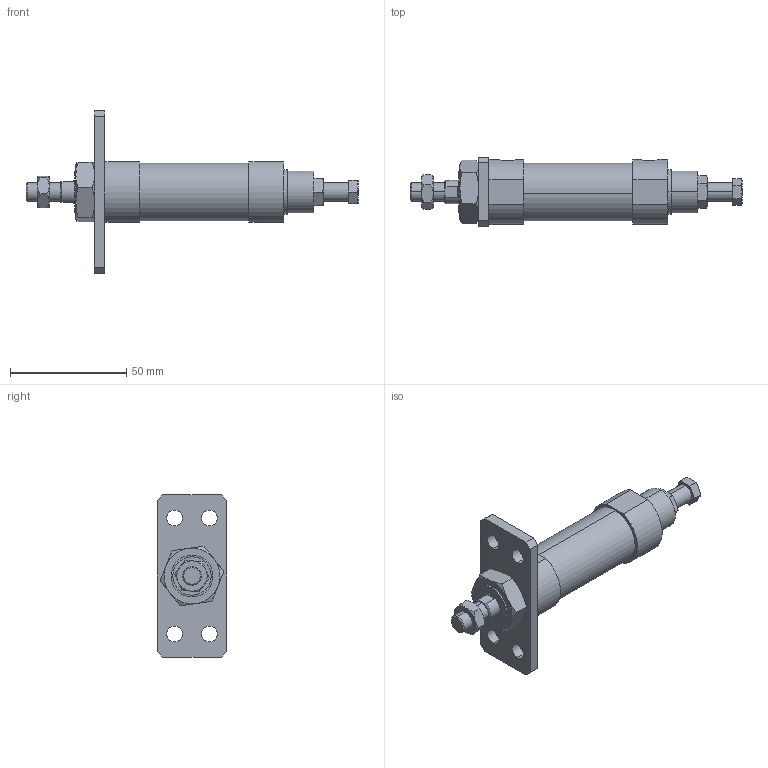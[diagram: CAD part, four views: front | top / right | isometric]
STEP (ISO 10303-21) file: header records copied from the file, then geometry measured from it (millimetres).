
FILE_DESCRIPTION (( 'STEP AP203' ), '1' );
FILE_NAME ('JGA2-20-15-A.STEP', '2016-04-20T05:04:01', ( '' ), ( '' ), 'SwSTEP 2.0', 'SolidWorks 2014', '' );
FILE_SCHEMA (( 'CONFIG_CONTROL_DESIGN' ));
Length unit declared in the file: millimetre
Products named in the file (7): JGLH2-20B; J#2-20-A; M8x1.25-5mm; JGA2-20A; 20-15; JGA2-20-15-A; M18x1.5-8mm
Assembly tree (6 placements, depth 2):
  JGA2-20-15-A
    JGLH2-20B
    20-15
    JGA2-20A
    M8x1.25-5mm
    M18x1.5-8mm
    J#2-20-A
Bounding box: 143 x 30 x 70 mm (x, y, z)
Volume: 59164.6 mm3; surface area: 20087.3 mm2
Topology: 6 solids, 6 shells, 141 faces, 314 edges, 196 vertices
Faces by surface type: plane 63, cylinder 38, torus 36, cone 4
Entity records: 5217 total; most frequent: CARTESIAN_POINT 1384, DIRECTION 650, ORIENTED_EDGE 628, EDGE_CURVE 314, AXIS2_PLACEMENT_3D 266, VERTEX_POINT 196, EDGE_LOOP 166, ADVANCED_FACE 141
